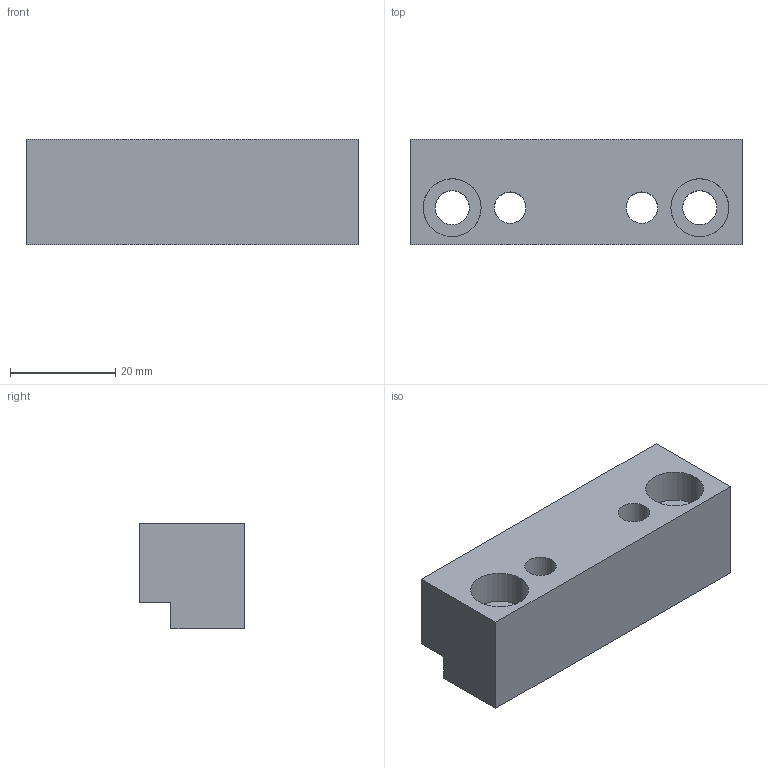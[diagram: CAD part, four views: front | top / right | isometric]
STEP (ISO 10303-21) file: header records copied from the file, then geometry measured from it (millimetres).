
FILE_DESCRIPTION(('CATIA V5 STEP Exchange'),'2;1');
FILE_NAME('C:\Users\Utente\Desktop\3D files G406\G40620063.stp','2020-04-22T11:26:34+00:00',('none'),('none'),'CATIA Version 5 Release 20 GA (IN-10)','CATIA V5 STEP AP203','none');
FILE_SCHEMA(('CONFIG_CONTROL_DESIGN'));
Length unit declared in the file: millimetre
Products named in the file (1): G40620063
Bounding box: 63 x 20 x 20 mm (x, y, z)
Surface area: 8476.4 mm2 (no closed solid volume)
Topology: 0 solids, 138 shells, 138 faces, 574 edges, 528 vertices
Faces by surface type: revolution 56, cylinder 56, plane 26
Entity records: 6916 total; most frequent: CARTESIAN_POINT 2525, DIRECTION 694, ORIENTED_EDGE 528, EDGE_CURVE 528, VERTEX_POINT 528, AXIS2_PLACEMENT_3D 297, VECTOR 260, LINE 260
